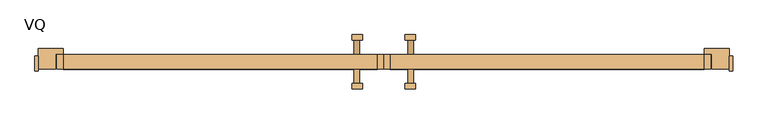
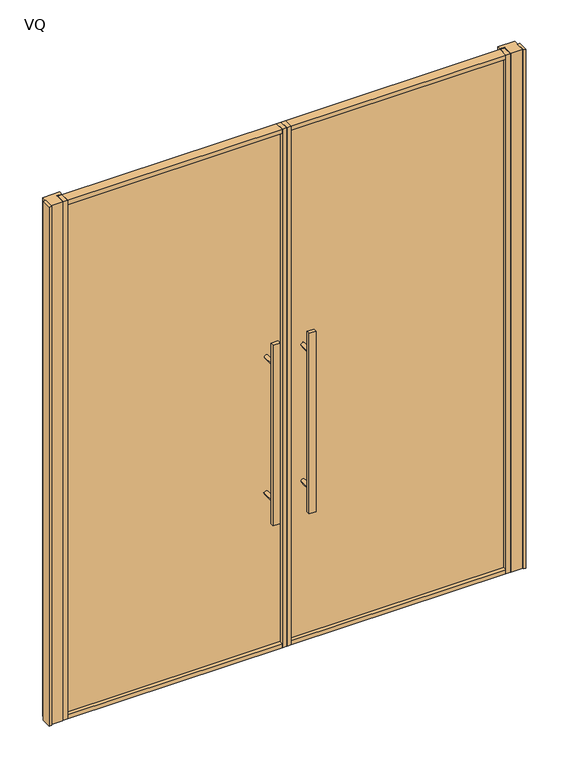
"""IFC4 building model written with IfcOpenShell, lengths in millimetres: door geometry, Mobiliário_Mobiliário de Escritório_Porta Dupla de Giro Emoldurada_Marelli : VQ."""

from ifc_helpers import new_model, si_unit, point, frame, frame_2d, origin, origin_with_axes, place, context, project, spatial, polyline, circle_curve, trimmed, segment, composite_curve, outline, extrude, source, transform, mapped, element, save


def vq_b7f1955d(model_context):
    return source(origin(), model_context, "Body", "SweptSolid", [
        extrude(outline(polyline([(-990.0, -21.5), (-1000.0, -21.5), (-1000.0, 21.5), (-990.0, 21.5), (-990.0, -21.5)])), origin_with_axes(), (0.0, 0.0, 1.0), 2300.0),
        extrude(outline(polyline([(990.0, -21.5), (990.0, 21.5), (1000.0, 21.5), (1000.0, -21.5), (990.0, -21.5)])), origin_with_axes(), (0.0, 0.0, 1.0), 2300.0),
        extrude(outline(polyline([(-990.0, 42.5), (-919.0, 42.5), (-919.0, 27.0), (-940.0, 27.0), (-940.0, -16.5), (-990.0, -16.5), (-990.0, 42.5)])), origin_with_axes(), (0.0, 0.0, 1.0), 2300.0),
        extrude(outline(polyline([(990.0, 42.5), (990.0, -16.5), (940.0, -16.5), (940.0, 27.0), (919.0, 27.0), (919.0, 42.5), (990.0, 42.5)])), origin_with_axes(), (0.0, 0.0, 1.0), 2300.0),
        extrude(outline(polyline([(0.25, -16.5), (0.25, 25.5), (18.0, 25.5), (18.0, -16.5), (0.25, -16.5)])), frame((0.0, 0.0, 0.2), z_axis=(0.0, 0.0, 1.0), x_axis=(1.0, 0.0, 0.0)), (0.0, 0.0, 1.0), 2297.8),
        extrude(outline(polyline([(937.5, -16.5), (919.5, -16.5), (919.5, 25.5), (937.5, 25.5), (937.5, -16.5)])), frame((0.0, 0.0, 0.2), z_axis=(0.0, 0.0, 1.0), x_axis=(1.0, 0.0, 0.0)), (0.0, 0.0, 1.0), 2297.8),
        extrude(outline(polyline([(-0.25, -16.5), (-18.0, -16.5), (-18.0, 25.5), (-0.25, 25.5), (-0.25, -16.5)])), frame((0.0, 0.0, 0.2), z_axis=(0.0, 0.0, 1.0), x_axis=(1.0, 0.0, 0.0)), (0.0, 0.0, 1.0), 2297.8),
        extrude(outline(polyline([(-937.5, -16.5), (-937.5, 25.5), (-919.5, 25.5), (-919.5, -16.5), (-937.5, -16.5)])), frame((0.0, 0.0, 0.2), z_axis=(0.0, 0.0, 1.0), x_axis=(1.0, 0.0, 0.0)), (0.0, 0.0, 1.0), 2297.8),
        extrude(outline(polyline([(919.5, 8.5), (919.5, 0.5), (18.0, 0.5), (18.0, 8.5), (919.5, 8.5)])), frame((0.0, 0.0, 18.0), z_axis=(0.0, 0.0, 1.0), x_axis=(1.0, 0.0, 0.0)), (0.0, 0.0, 1.0), 2262.0),
        extrude(outline(polyline([(-919.5, 8.5), (-18.0, 8.5), (-18.0, 0.5), (-919.5, 0.5), (-919.5, 8.5)])), frame((0.0, 0.0, 18.0), z_axis=(0.0, 0.0, 1.0), x_axis=(1.0, 0.0, 0.0)), (0.0, 0.0, 1.0), 2262.0),
        extrude(outline(polyline([(60.7721367, 82.2), (90.7721367, 82.2), (90.7721367, 67.2), (60.7721367, 67.2), (60.7721367, 82.2)])), frame((0.0, 0.0, 600.0), z_axis=(0.0, 0.0, 1.0), x_axis=(1.0, 0.0, 0.0)), (0.0, 0.0, 1.0), 800.0),
        extrude(outline(composite_curve([segment(trimmed(circle_curve(frame_2d((698.0, 76.9)), 8.0), [point((698.0, 68.9))], [point((698.0, 84.9))], False, "CARTESIAN"), True, "CONTINUOUS"), segment(trimmed(circle_curve(frame_2d((698.0, 76.9)), 8.0), [point((698.0, 84.9))], [point((698.0, 68.9))], False, "CARTESIAN"), True, "CONTINUOUS")], self_intersect=False)), frame((0.0, -58.2, 0.0), z_axis=(0.0, 1.0, 0.0), x_axis=(0.0, 0.0, 1.0)), (0.0, 0.0, 1.0), 58.7),
        extrude(outline(composite_curve([segment(trimmed(circle_curve(frame_2d((1302.0, 76.9)), 8.0), [point((1302.0, 68.9))], [point((1302.0, 84.9))], False, "CARTESIAN"), True, "CONTINUOUS"), segment(trimmed(circle_curve(frame_2d((1302.0, 76.9)), 8.0), [point((1302.0, 84.9))], [point((1302.0, 68.9))], False, "CARTESIAN"), True, "CONTINUOUS")], self_intersect=False)), frame((0.0, -58.2, 0.0), z_axis=(0.0, 1.0, 0.0), x_axis=(0.0, 0.0, 1.0)), (0.0, 0.0, 1.0), 58.7),
        extrude(outline(composite_curve([segment(trimmed(circle_curve(frame_2d((698.0, 76.9)), 8.0), [point((698.0, 68.9))], [point((698.0, 84.9))], False, "CARTESIAN"), True, "CONTINUOUS"), segment(trimmed(circle_curve(frame_2d((698.0, 76.9)), 8.0), [point((698.0, 84.9))], [point((698.0, 68.9))], False, "CARTESIAN"), True, "CONTINUOUS")], self_intersect=False)), frame((0.0, 8.5, 0.0), z_axis=(0.0, 1.0, 0.0), x_axis=(0.0, 0.0, 1.0)), (0.0, 0.0, 1.0), 58.7),
        extrude(outline(composite_curve([segment(trimmed(circle_curve(frame_2d((1302.0, 76.9)), 8.0), [point((1302.0, 68.9))], [point((1302.0, 84.9))], False, "CARTESIAN"), True, "CONTINUOUS"), segment(trimmed(circle_curve(frame_2d((1302.0, 76.9)), 8.0), [point((1302.0, 84.9))], [point((1302.0, 68.9))], False, "CARTESIAN"), True, "CONTINUOUS")], self_intersect=False)), frame((0.0, 8.5, 0.0), z_axis=(0.0, 1.0, 0.0), x_axis=(0.0, 0.0, 1.0)), (0.0, 0.0, 1.0), 58.7),
        extrude(outline(polyline([(60.7721367, -73.2), (60.7721367, -58.2), (90.7721367, -58.2), (90.7721367, -73.2), (60.7721367, -73.2)])), frame((0.0, 0.0, 600.0), z_axis=(0.0, 0.0, 1.0), x_axis=(1.0, 0.0, 0.0)), (0.0, 0.0, 1.0), 800.0),
        extrude(outline(polyline([(-60.7721367, 82.2), (-60.7721367, 67.2), (-90.7721367, 67.2), (-90.7721367, 82.2), (-60.7721367, 82.2)])), frame((0.0, 0.0, 600.0), z_axis=(0.0, 0.0, 1.0), x_axis=(1.0, 0.0, 0.0)), (0.0, 0.0, 1.0), 800.0),
        extrude(outline(composite_curve([segment(trimmed(circle_curve(frame_2d((698.0, -76.9)), 8.0), [point((698.0, -68.9))], [point((698.0, -84.9))], False, "CARTESIAN"), True, "CONTINUOUS"), segment(trimmed(circle_curve(frame_2d((698.0, -76.9)), 8.0), [point((698.0, -84.9))], [point((698.0, -68.9))], False, "CARTESIAN"), True, "CONTINUOUS")], self_intersect=False)), frame((0.0, -58.2, 0.0), z_axis=(0.0, 1.0, 0.0), x_axis=(0.0, 0.0, 1.0)), (0.0, 0.0, 1.0), 58.7),
        extrude(outline(composite_curve([segment(trimmed(circle_curve(frame_2d((1302.0, -76.9)), 8.0), [point((1302.0, -68.9))], [point((1302.0, -84.9))], False, "CARTESIAN"), True, "CONTINUOUS"), segment(trimmed(circle_curve(frame_2d((1302.0, -76.9)), 8.0), [point((1302.0, -84.9))], [point((1302.0, -68.9))], False, "CARTESIAN"), True, "CONTINUOUS")], self_intersect=False)), frame((0.0, -58.2, 0.0), z_axis=(0.0, 1.0, 0.0), x_axis=(0.0, 0.0, 1.0)), (0.0, 0.0, 1.0), 58.7),
        extrude(outline(composite_curve([segment(trimmed(circle_curve(frame_2d((698.0, -76.9)), 8.0), [point((698.0, -68.9))], [point((698.0, -84.9))], False, "CARTESIAN"), True, "CONTINUOUS"), segment(trimmed(circle_curve(frame_2d((698.0, -76.9)), 8.0), [point((698.0, -84.9))], [point((698.0, -68.9))], False, "CARTESIAN"), True, "CONTINUOUS")], self_intersect=False)), frame((0.0, 8.5, 0.0), z_axis=(0.0, 1.0, 0.0), x_axis=(0.0, 0.0, 1.0)), (0.0, 0.0, 1.0), 58.7),
        extrude(outline(composite_curve([segment(trimmed(circle_curve(frame_2d((1302.0, -76.9)), 8.0), [point((1302.0, -68.9))], [point((1302.0, -84.9))], False, "CARTESIAN"), True, "CONTINUOUS"), segment(trimmed(circle_curve(frame_2d((1302.0, -76.9)), 8.0), [point((1302.0, -84.9))], [point((1302.0, -68.9))], False, "CARTESIAN"), True, "CONTINUOUS")], self_intersect=False)), frame((0.0, 8.5, 0.0), z_axis=(0.0, 1.0, 0.0), x_axis=(0.0, 0.0, 1.0)), (0.0, 0.0, 1.0), 58.7),
        extrude(outline(polyline([(-60.7721367, -73.2), (-90.7721367, -73.2), (-90.7721367, -58.2), (-60.7721367, -58.2), (-60.7721367, -73.2)])), frame((0.0, 0.0, 600.0), z_axis=(0.0, 0.0, 1.0), x_axis=(1.0, 0.0, 0.0)), (0.0, 0.0, 1.0), 800.0),
        extrude(outline(polyline([(919.5, -16.5), (18.0, -16.5), (18.0, 25.5), (919.5, 25.5), (919.5, -16.5)])), origin_with_axes(), (0.0, 0.0, 1.0), 18.0),
        extrude(outline(polyline([(-919.5, -16.5), (-919.5, 25.5), (-18.0, 25.5), (-18.0, -16.5), (-919.5, -16.5)])), origin_with_axes(), (0.0, 0.0, 1.0), 18.0),
        extrude(outline(polyline([(919.5, -16.5), (18.25, -16.5), (18.25, 25.5), (919.5, 25.5), (919.5, -16.5)])), frame((0.0, 0.0, 2280.0), z_axis=(0.0, 0.0, 1.0), x_axis=(1.0, 0.0, 0.0)), (0.0, 0.0, 1.0), 18.0),
        extrude(outline(polyline([(-919.5, -16.5), (-919.5, 25.5), (-18.25, 25.5), (-18.25, -16.5), (-919.5, -16.5)])), frame((0.0, 0.0, 2280.0), z_axis=(0.0, 0.0, 1.0), x_axis=(1.0, 0.0, 0.0)), (0.0, 0.0, 1.0), 18.0),
    ])


if __name__ == "__main__":
    model = new_model("IFC4")
    model_context = context("Model", 3, world=origin())
    ifc_project = project(units=[si_unit("LENGTHUNIT", "METRE", prefix="MILLI")], contexts=[model_context])
    site = spatial("IfcSite", under=ifc_project)
    building = spatial("IfcBuilding", under=site)
    placement = place(None, origin())
    vq_shape = vq_b7f1955d(model_context)
    element("IfcDoor", 1, ObjectType="Mobiliário_Mobiliário de Escritório_Porta Dupla de Giro Emoldurada_Marelli : VQ", at=placement, inside=building, context=model_context, shape_type="MappedRepresentation", body=[
        mapped(vq_shape, transform((0.0, 0.0, 0.0), x_axis=(1.0, 0.0, 0.0), y_axis=(0.0, 1.0, 0.0), z_axis=(0.0, 0.0, 1.0))),
    ])
    save(model, "model.ifc")
